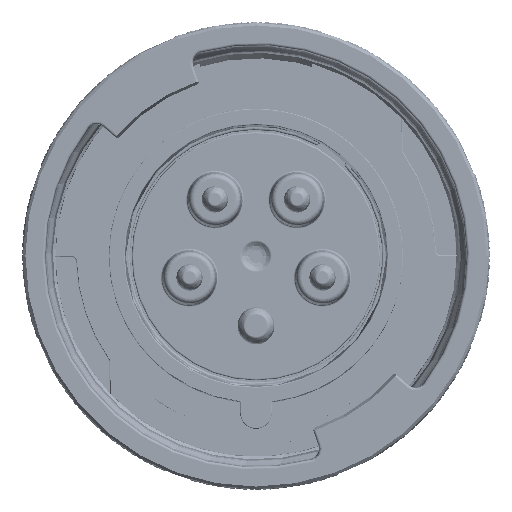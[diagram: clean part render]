
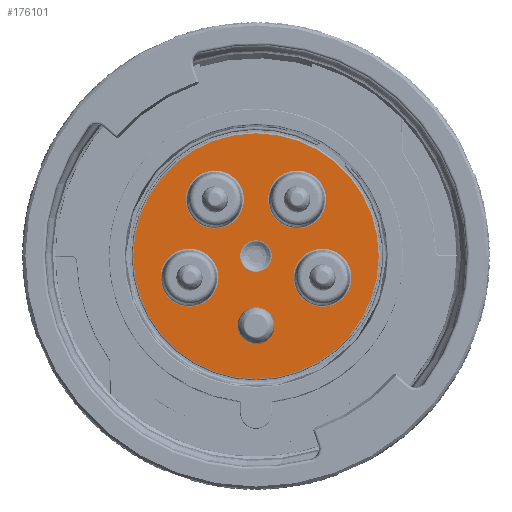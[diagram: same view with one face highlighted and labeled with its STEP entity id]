
A CAD part, top view. The second image highlights one B-rep face of the part: STEP entity #176101.
In plain terms, the highlighted planar face has unit normal (0, 0, 1).
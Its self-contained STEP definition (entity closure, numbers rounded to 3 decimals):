
#73883=CARTESIAN_POINT('',(0.,0.,-36.5));
#73884=DIRECTION('',(0.,0.,-1.));
#73885=DIRECTION('',(-1.,0.,0.));
#73886=AXIS2_PLACEMENT_3D('',#73883,#73884,#73885);
#73888=CARTESIAN_POINT('',(0.,0.,-36.5));
#73889=DIRECTION('',(0.,0.,-1.));
#73890=DIRECTION('',(1.,0.,0.));
#73891=AXIS2_PLACEMENT_3D('',#73888,#73889,#73890);
#73893=CARTESIAN_POINT('',(0.,0.,-36.5));
#73894=DIRECTION('',(0.,0.,-1.));
#73895=DIRECTION('',(-1.,0.,0.));
#73896=AXIS2_PLACEMENT_3D('',#73893,#73894,#73895);
#73898=CARTESIAN_POINT('',(0.,0.,-36.5));
#73899=DIRECTION('',(0.,0.,-1.));
#73900=DIRECTION('',(1.,0.,0.));
#73901=AXIS2_PLACEMENT_3D('',#73898,#73899,#73900);
#73903=CARTESIAN_POINT('',(0.,-13.25,-36.5));
#73904=DIRECTION('',(0.,0.,-1.));
#73905=DIRECTION('',(0.996,0.087,0.));
#73906=AXIS2_PLACEMENT_3D('',#73903,#73904,#73905);
#73908=CARTESIAN_POINT('',(0.,-13.25,-36.5));
#73909=DIRECTION('',(0.,0.,-1.));
#73910=DIRECTION('',(-0.996,-0.087,0.));
#73911=AXIS2_PLACEMENT_3D('',#73908,#73909,#73910);
#73913=CARTESIAN_POINT('',(-12.601,-4.094,-36.5));
#73914=DIRECTION('',(0.,0.,1.));
#73915=DIRECTION('',(1.,0.,0.));
#73916=AXIS2_PLACEMENT_3D('',#73913,#73914,#73915);
#73928=CARTESIAN_POINT('',(-12.601,-4.094,-36.5));
#73929=DIRECTION('',(0.,0.,1.));
#73930=DIRECTION('',(-1.,0.,0.));
#73931=AXIS2_PLACEMENT_3D('',#73928,#73929,#73930);
#74067=CARTESIAN_POINT('',(-7.788,10.719,-36.5));
#74068=DIRECTION('',(0.,0.,1.));
#74069=DIRECTION('',(0.309,-0.951,0.));
#74070=AXIS2_PLACEMENT_3D('',#74067,#74068,#74069);
#74082=CARTESIAN_POINT('',(-7.788,10.719,-36.5));
#74083=DIRECTION('',(0.,0.,1.));
#74084=DIRECTION('',(-0.309,0.951,0.));
#74085=AXIS2_PLACEMENT_3D('',#74082,#74083,#74084);
#74221=CARTESIAN_POINT('',(7.788,10.719,-36.5));
#74222=DIRECTION('',(0.,0.,1.));
#74223=DIRECTION('',(-0.809,-0.588,0.));
#74224=AXIS2_PLACEMENT_3D('',#74221,#74222,#74223);
#74236=CARTESIAN_POINT('',(7.788,10.719,-36.5));
#74237=DIRECTION('',(0.,0.,1.));
#74238=DIRECTION('',(0.809,0.588,0.));
#74239=AXIS2_PLACEMENT_3D('',#74236,#74237,#74238);
#74375=CARTESIAN_POINT('',(12.601,-4.094,-36.5));
#74376=DIRECTION('',(0.,0.,1.));
#74377=DIRECTION('',(-0.809,0.588,0.));
#74378=AXIS2_PLACEMENT_3D('',#74375,#74376,#74377);
#74390=CARTESIAN_POINT('',(12.601,-4.094,-36.5));
#74391=DIRECTION('',(0.,0.,1.));
#74392=DIRECTION('',(0.809,-0.588,0.));
#74393=AXIS2_PLACEMENT_3D('',#74390,#74391,#74392);
#115736=CARTESIAN_POINT('',(-7.097,-4.094,-36.5));
#115737=CARTESIAN_POINT('',(-18.106,-4.094,-36.5));
#115738=VERTEX_POINT('',#115736);
#115739=VERTEX_POINT('',#115737);
#115768=CARTESIAN_POINT('',(-6.087,5.485,-36.5));
#115769=CARTESIAN_POINT('',(-9.489,15.954,-36.5));
#115770=VERTEX_POINT('',#115768);
#115771=VERTEX_POINT('',#115769);
#115776=CARTESIAN_POINT('',(3.335,7.484,-36.5));
#115777=CARTESIAN_POINT('',(12.241,13.955,-36.5));
#115778=VERTEX_POINT('',#115776);
#115779=VERTEX_POINT('',#115777);
#115784=CARTESIAN_POINT('',(8.149,-0.859,-36.5));
#115785=CARTESIAN_POINT('',(17.054,-7.33,-36.5));
#115786=VERTEX_POINT('',#115784);
#115787=VERTEX_POINT('',#115785);
#115792=CARTESIAN_POINT('',(-2.985,0.,-36.5));
#115793=CARTESIAN_POINT('',(2.985,0.,-36.5));
#115794=VERTEX_POINT('',#115792);
#115795=VERTEX_POINT('',#115793);
#115808=CARTESIAN_POINT('',(-23.262,0.,-36.5));
#115809=CARTESIAN_POINT('',(23.262,0.,-36.5));
#115810=VERTEX_POINT('',#115808);
#115811=VERTEX_POINT('',#115809);
#115844=CARTESIAN_POINT('',(3.477,-12.946,-36.5));
#115845=CARTESIAN_POINT('',(-3.477,-13.554,-36.5));
#115846=VERTEX_POINT('',#115844);
#115847=VERTEX_POINT('',#115845);
#176056=CARTESIAN_POINT('',(0.,0.,-36.5));
#176057=DIRECTION('',(0.,0.,1.));
#176058=DIRECTION('',(1.,0.,0.));
#176059=AXIS2_PLACEMENT_3D('',#176056,#176057,#176058);
#176060=PLANE('178',#176059);
#176061=ORIENTED_EDGE('4848',*,*,#176043,.T.);
#176062=ORIENTED_EDGE('4850',*,*,#176022,.T.);
#176063=EDGE_LOOP('178',(#176061,#176062));
#176064=FACE_OUTER_BOUND('178',#176063,.F.);
#176066=ORIENTED_EDGE('4787',*,*,#176065,.T.);
#176068=ORIENTED_EDGE('4789',*,*,#176067,.T.);
#176069=EDGE_LOOP('178',(#176066,#176068));
#176070=FACE_BOUND('178',#176069,.F.);
#176072=ORIENTED_EDGE('4813',*,*,#176071,.T.);
#176074=ORIENTED_EDGE('4815',*,*,#176073,.T.);
#176075=EDGE_LOOP('178',(#176072,#176074));
#176076=FACE_BOUND('178',#176075,.F.);
#176078=ORIENTED_EDGE('4817',*,*,#176077,.T.);
#176080=ORIENTED_EDGE('4819',*,*,#176079,.T.);
#176081=EDGE_LOOP('178',(#176078,#176080));
#176082=FACE_BOUND('178',#176081,.F.);
#176084=ORIENTED_EDGE('4821',*,*,#176083,.T.);
#176086=ORIENTED_EDGE('4823',*,*,#176085,.T.);
#176087=EDGE_LOOP('178',(#176084,#176086));
#176088=FACE_BOUND('178',#176087,.F.);
#176090=ORIENTED_EDGE('4837',*,*,#176089,.F.);
#176092=ORIENTED_EDGE('4839',*,*,#176091,.F.);
#176093=EDGE_LOOP('178',(#176090,#176092));
#176094=FACE_BOUND('178',#176093,.F.);
#176096=ORIENTED_EDGE('4883',*,*,#176095,.F.);
#176098=ORIENTED_EDGE('4884',*,*,#176097,.F.);
#176099=EDGE_LOOP('178',(#176096,#176098));
#176100=FACE_BOUND('178',#176099,.F.);
#73887=CIRCLE('4848',#73886,23.262);
#73892=CIRCLE('4850',#73891,23.262);
#73897=CIRCLE('4837',#73896,2.985);
#73902=CIRCLE('4839',#73901,2.985);
#73907=CIRCLE('4883',#73906,3.49);
#73912=CIRCLE('4884',#73911,3.49);
#73917=CIRCLE('4787',#73916,5.504);
#73932=CIRCLE('4789',#73931,5.504);
#74071=CIRCLE('4813',#74070,5.504);
#74086=CIRCLE('4815',#74085,5.504);
#74225=CIRCLE('4817',#74224,5.504);
#74240=CIRCLE('4819',#74239,5.504);
#74379=CIRCLE('4821',#74378,5.504);
#74394=CIRCLE('4823',#74393,5.504);
#176022=EDGE_CURVE('4850',#115811,#115810,#73892,.T.);
#176043=EDGE_CURVE('4848',#115810,#115811,#73887,.T.);
#176065=EDGE_CURVE('4787',#115738,#115739,#73917,.T.);
#176067=EDGE_CURVE('4789',#115739,#115738,#73932,.T.);
#176071=EDGE_CURVE('4813',#115770,#115771,#74071,.T.);
#176073=EDGE_CURVE('4815',#115771,#115770,#74086,.T.);
#176077=EDGE_CURVE('4817',#115778,#115779,#74225,.T.);
#176079=EDGE_CURVE('4819',#115779,#115778,#74240,.T.);
#176083=EDGE_CURVE('4821',#115786,#115787,#74379,.T.);
#176085=EDGE_CURVE('4823',#115787,#115786,#74394,.T.);
#176089=EDGE_CURVE('4837',#115794,#115795,#73897,.T.);
#176091=EDGE_CURVE('4839',#115795,#115794,#73902,.T.);
#176095=EDGE_CURVE('4883',#115846,#115847,#73907,.T.);
#176097=EDGE_CURVE('4884',#115847,#115846,#73912,.T.);
#176101=ADVANCED_FACE('178',(#176064,#176070,#176076,#176082,#176088,#176094,
#176100),#176060,.T.);
